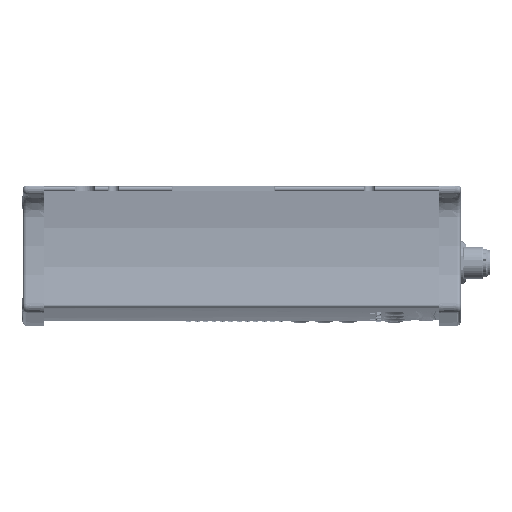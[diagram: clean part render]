
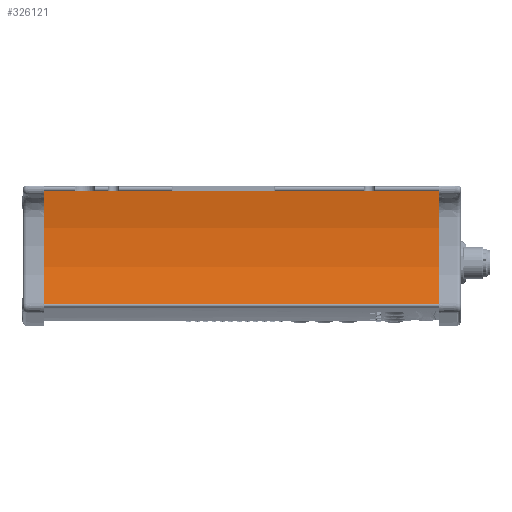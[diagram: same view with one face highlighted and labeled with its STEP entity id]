
A CAD part, left-side view. The second image highlights one B-rep face of the part: STEP entity #326121.
In plain terms, the highlighted cylindrical face has radius 109.9 mm (diameter 219.8 mm), a partial arc.
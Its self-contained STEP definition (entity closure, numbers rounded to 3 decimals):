
#7521 = LINE ( 'NONE', #309896, #186197 ) ;
#19555 = DIRECTION ( 'NONE',  ( 0., 0., -1. ) ) ;
#23591 = EDGE_CURVE ( 'NONE', #137618, #257782, #7521, .T. ) ;
#39464 = FACE_OUTER_BOUND ( 'NONE', #54612, .T. ) ;
#41789 = CIRCLE ( 'NONE', #305642, 109.9 ) ;
#54612 = EDGE_LOOP ( 'NONE', ( #64575, #153247, #294905, #184882 ) ) ;
#64575 = ORIENTED_EDGE ( 'NONE', *, *, #283842, .T. ) ;
#66126 = DIRECTION ( 'NONE',  ( 0., 0., 1. ) ) ;
#83533 = DIRECTION ( 'NONE',  ( 0., 1., 0. ) ) ;
#85800 = CARTESIAN_POINT ( 'NONE',  ( -79.662, -175., -1.548 ) ) ;
#96320 = DIRECTION ( 'NONE',  ( 0., 1., 0. ) ) ;
#137618 = VERTEX_POINT ( 'NONE', #141072 ) ;
#137766 = EDGE_CURVE ( 'NONE', #299363, #137618, #311513, .T. ) ;
#141072 = CARTESIAN_POINT ( 'NONE',  ( -81.929, -175., -49.24 ) ) ;
#143513 = CARTESIAN_POINT ( 'NONE',  ( -187.95, -175., -20.3 ) ) ;
#153247 = ORIENTED_EDGE ( 'NONE', *, *, #23591, .F. ) ;
#153793 = AXIS2_PLACEMENT_3D ( 'NONE', #143513, #188223, #19555 ) ;
#166086 = VECTOR ( 'NONE', #231183, 1000. ) ;
#170896 = CARTESIAN_POINT ( 'NONE',  ( -81.929, -1., -49.24 ) ) ;
#184882 = ORIENTED_EDGE ( 'NONE', *, *, #205821, .T. ) ;
#186197 = VECTOR ( 'NONE', #83533, 1000. ) ;
#188223 = DIRECTION ( 'NONE',  ( 0., 1., 0. ) ) ;
#191650 = CARTESIAN_POINT ( 'NONE',  ( -187.95, -1., -20.3 ) ) ;
#205821 = EDGE_CURVE ( 'NONE', #299363, #238920, #287433, .T. ) ;
#214587 = CYLINDRICAL_SURFACE ( 'NONE', #153793, 109.9 ) ;
#221277 = DIRECTION ( 'NONE',  ( 0., 1., 0. ) ) ;
#231183 = DIRECTION ( 'NONE',  ( 0., 1., 0. ) ) ;
#238920 = VERTEX_POINT ( 'NONE', #259187 ) ;
#257782 = VERTEX_POINT ( 'NONE', #170896 ) ;
#259187 = CARTESIAN_POINT ( 'NONE',  ( -79.662, -1., -1.548 ) ) ;
#268343 = CARTESIAN_POINT ( 'NONE',  ( -187.95, -175., -20.3 ) ) ;
#281638 = CARTESIAN_POINT ( 'NONE',  ( -79.662, -175., -1.548 ) ) ;
#283842 = EDGE_CURVE ( 'NONE', #238920, #257782, #41789, .T. ) ;
#287433 = LINE ( 'NONE', #85800, #166086 ) ;
#293079 = DIRECTION ( 'NONE',  ( 0., 0., 1. ) ) ;
#294905 = ORIENTED_EDGE ( 'NONE', *, *, #137766, .F. ) ;
#299363 = VERTEX_POINT ( 'NONE', #281638 ) ;
#300903 = AXIS2_PLACEMENT_3D ( 'NONE', #268343, #96320, #293079 ) ;
#305642 = AXIS2_PLACEMENT_3D ( 'NONE', #191650, #221277, #66126 ) ;
#309896 = CARTESIAN_POINT ( 'NONE',  ( -81.929, -175., -49.24 ) ) ;
#311513 = CIRCLE ( 'NONE', #300903, 109.9 ) ;
#326121 = ADVANCED_FACE ( 'NONE', ( #39464 ), #214587, .F. ) ;
